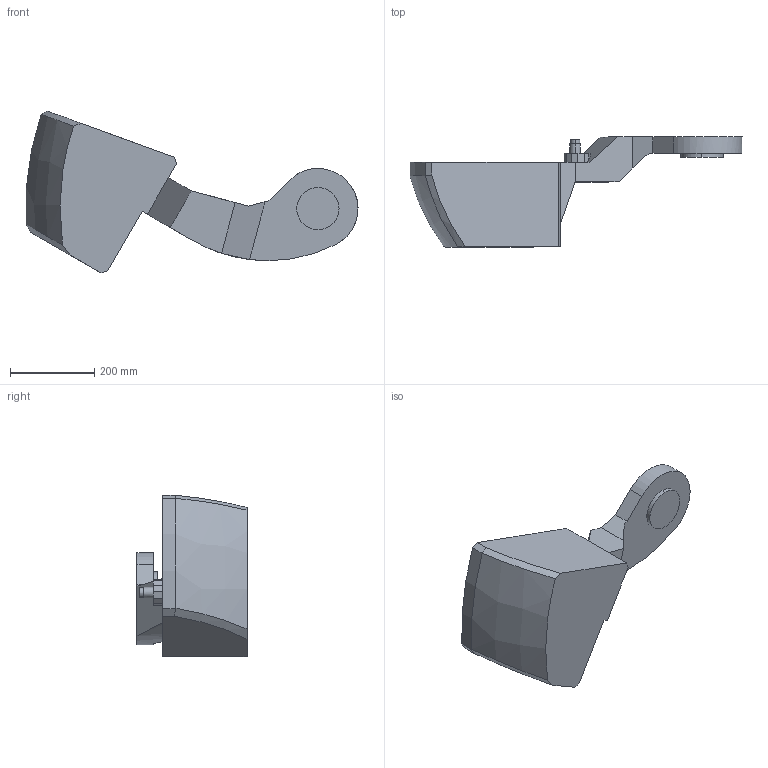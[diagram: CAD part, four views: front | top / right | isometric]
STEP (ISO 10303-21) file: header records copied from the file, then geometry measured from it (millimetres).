
FILE_DESCRIPTION (( 'STEP AP214' ), '1' );
FILE_NAME ('IRB4400_60-195_IRC5_rev02_LINKARM_CAD.STEP', '2016-11-03T06:48:48', ( 'ABB' ), ( 'ABB' ), 'SwSTEP 2.0', 'SolidWorks 2014', '' );
FILE_SCHEMA (( 'AUTOMOTIVE_DESIGN' ));
Length unit declared in the file: millimetre
Products named in the file (1): IRB4400_60-195_IRC5_rev02_LINKARM_CAD
Bounding box: 785.97 x 260.5 x 382.41 mm (x, y, z)
Volume: 19469363 mm3; surface area: 582218.8 mm2
Topology: 1 solids, 1 shells, 50 faces, 132 edges, 87 vertices
Faces by surface type: plane 37, cylinder 10, bspline 3
Entity records: 2458 total; most frequent: CARTESIAN_POINT 1159, ORIENTED_EDGE 264, DIRECTION 219, EDGE_CURVE 132, VECTOR 97, LINE 97, VERTEX_POINT 87, AXIS2_PLACEMENT_3D 61
